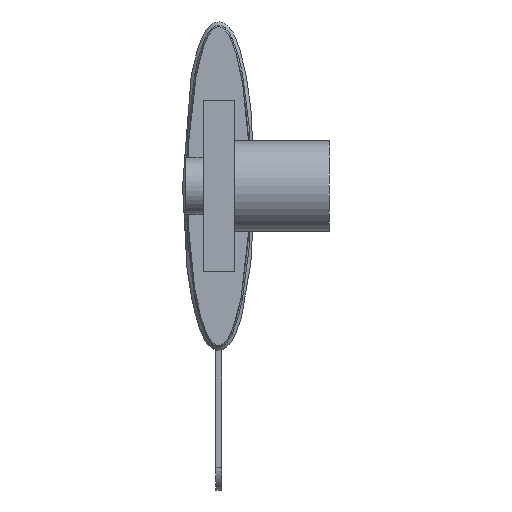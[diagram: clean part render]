
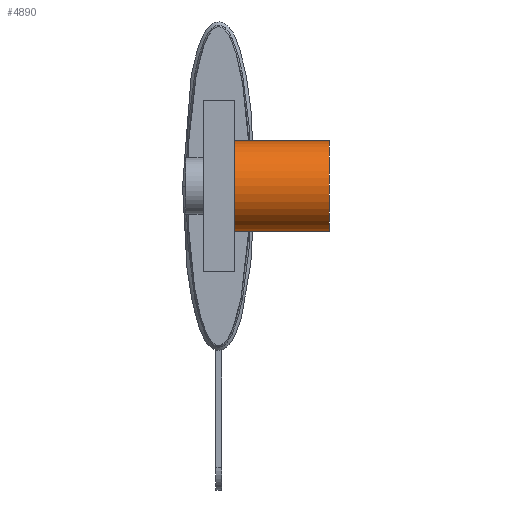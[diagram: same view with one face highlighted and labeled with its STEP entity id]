
A CAD part, left-side view. The second image highlights one B-rep face of the part: STEP entity #4890.
In plain terms, the highlighted cylindrical face has radius 3.97 mm (diameter 7.94 mm), a partial arc.
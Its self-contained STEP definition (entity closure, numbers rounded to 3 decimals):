
#310 = VECTOR ( 'NONE', #4182, 1000. ) ;
#516 = EDGE_CURVE ( 'NONE', #1909, #4918, #4186, .T. ) ;
#923 = EDGE_CURVE ( 'NONE', #5042, #1909, #5903, .T. ) ;
#1171 = CARTESIAN_POINT ( 'NONE',  ( -53.975, -9.735, -3.97 ) ) ;
#1466 = VECTOR ( 'NONE', #4727, 1000. ) ;
#1522 = CARTESIAN_POINT ( 'NONE',  ( -53.975, -1.375, 3.97 ) ) ;
#1540 = DIRECTION ( 'NONE',  ( 0., 0., 1. ) ) ;
#1548 = DIRECTION ( 'NONE',  ( 0., 1., 0. ) ) ;
#1550 = CARTESIAN_POINT ( 'NONE',  ( -53.975, -31.375, 0. ) ) ;
#1558 = CYLINDRICAL_SURFACE ( 'NONE', #4721, 3.97 ) ;
#1560 = ORIENTED_EDGE ( 'NONE', *, *, #2900, .F. ) ;
#1561 = FACE_OUTER_BOUND ( 'NONE', #1999, .T. ) ;
#1565 = ORIENTED_EDGE ( 'NONE', *, *, #923, .T. ) ;
#1567 = VERTEX_POINT ( 'NONE', #1814 ) ;
#1568 = CARTESIAN_POINT ( 'NONE',  ( -53.975, -9.735, 3.97 ) ) ;
#1575 = ORIENTED_EDGE ( 'NONE', *, *, #516, .T. ) ;
#1578 = ORIENTED_EDGE ( 'NONE', *, *, #2940, .T. ) ;
#1814 = CARTESIAN_POINT ( 'NONE',  ( -53.975, -1.375, -3.97 ) ) ;
#1909 = VERTEX_POINT ( 'NONE', #1568 ) ;
#1999 = EDGE_LOOP ( 'NONE', ( #1560, #1565, #1575, #1578 ) ) ;
#2860 = DIRECTION ( 'NONE',  ( 0., 0., 1. ) ) ;
#2862 = DIRECTION ( 'NONE',  ( 0., 1., 0. ) ) ;
#2884 = CARTESIAN_POINT ( 'NONE',  ( -53.975, -9.735, 0. ) ) ;
#2900 = EDGE_CURVE ( 'NONE', #5042, #1567, #4735, .T. ) ;
#2940 = EDGE_CURVE ( 'NONE', #4918, #1567, #4095, .T. ) ;
#4091 = AXIS2_PLACEMENT_3D ( 'NONE', #4577, #4571, #4569 ) ;
#4095 = CIRCLE ( 'NONE', #4091, 3.97 ) ;
#4182 = DIRECTION ( 'NONE',  ( 0., 1., 0. ) ) ;
#4185 = CARTESIAN_POINT ( 'NONE',  ( -53.975, -31.375, 3.97 ) ) ;
#4186 = LINE ( 'NONE', #4185, #310 ) ;
#4569 = DIRECTION ( 'NONE',  ( 0., 0., 1. ) ) ;
#4571 = DIRECTION ( 'NONE',  ( 0., -1., 0. ) ) ;
#4577 = CARTESIAN_POINT ( 'NONE',  ( -53.975, -1.375, 0. ) ) ;
#4721 = AXIS2_PLACEMENT_3D ( 'NONE', #1550, #1548, #1540 ) ;
#4727 = DIRECTION ( 'NONE',  ( 0., 1., 0. ) ) ;
#4733 = CARTESIAN_POINT ( 'NONE',  ( -53.975, -31.375, -3.97 ) ) ;
#4735 = LINE ( 'NONE', #4733, #1466 ) ;
#4890 = ADVANCED_FACE ( 'NONE', ( #1561 ), #1558, .T. ) ;
#4918 = VERTEX_POINT ( 'NONE', #1522 ) ;
#5042 = VERTEX_POINT ( 'NONE', #1171 ) ;
#5862 = AXIS2_PLACEMENT_3D ( 'NONE', #2884, #2862, #2860 ) ;
#5903 = CIRCLE ( 'NONE', #5862, 3.97 ) ;
